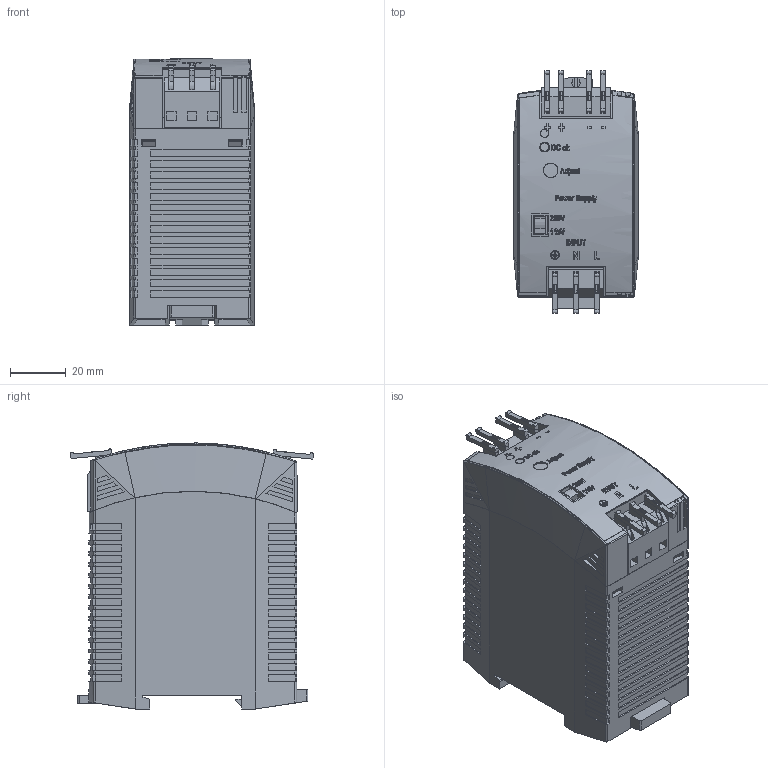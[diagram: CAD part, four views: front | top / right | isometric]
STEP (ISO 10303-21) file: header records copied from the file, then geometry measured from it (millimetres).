
FILE_DESCRIPTION((''),'2;1');
FILE_NAME('C:\Users\rahns\Desktop\Sylvia Info´s\Dateien für Vertrieb\ML70\md3_ml70_100.stp','2012-06-11T09:48:18',('rahns'),(''),'Autodesk Inventor 2009','Autodesk Inventor 2009','');
FILE_SCHEMA(('AUTOMOTIVE_DESIGN { 1 0 10303 214 1 1 1 1 }'));
Length unit declared in the file: millimetre
Products named in the file (8): 327; HOUSING BODY 322; HOUSING COVER 327; SLIDER 322; TERMINAL 3P; TERMINAL 4P R5+10_o; FRONTFOIL 327; SWITCH_1U41
Assembly tree (7 placements, depth 2):
  327
    HOUSING BODY 322
    HOUSING COVER 327
    SLIDER 322
    TERMINAL 3P
    TERMINAL 4P R5+10_o
    FRONTFOIL 327
    SWITCH_1U41
Bounding box: 45 x 87.49 x 95.87 mm (x, y, z)
Volume: 291907.5 mm3; surface area: 53659.1 mm2
Topology: 14 solids, 14 shells, 1719 faces, 4710 edges, 3129 vertices
Faces by surface type: plane 1183, bspline 274, cylinder 255, cone 7
Full cylindrical faces by diameter (mm): 1.2 x7, 3 x2, 5.2 x1
Entity records: 137007 total; most frequent: CARTESIAN_POINT 94341, ORIENTED_EDGE 9400, DIRECTION 7452, EDGE_CURVE 4700, VECTOR 3260, LINE 3260, VERTEX_POINT 3129, AXIS2_PLACEMENT_3D 2096
